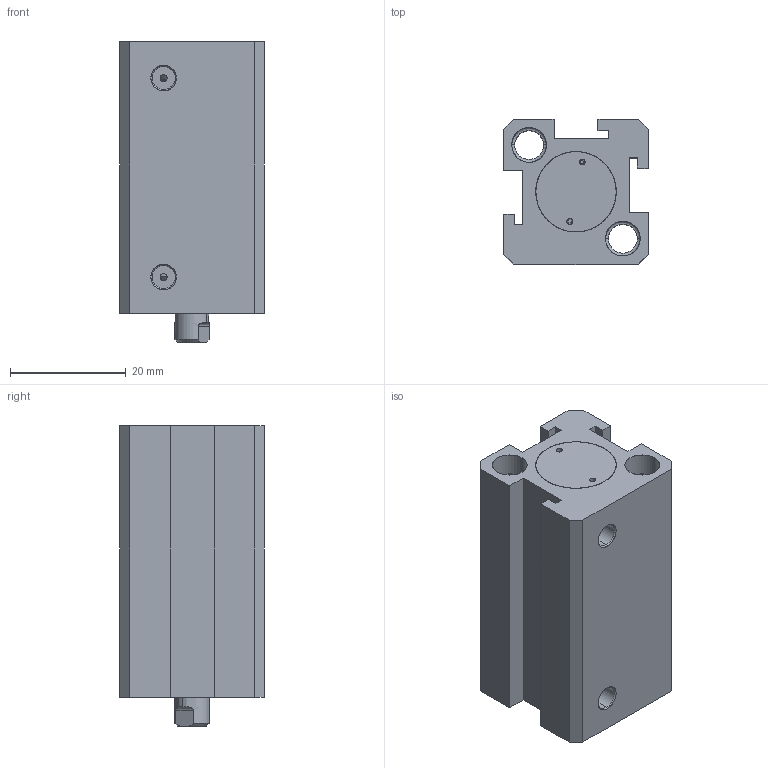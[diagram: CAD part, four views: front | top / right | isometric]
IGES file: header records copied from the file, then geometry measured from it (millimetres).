
Start section: SolidWorks IGES file using analytic representation for surfaces
Global section: file name: D:\ARICA 3D 禽Z軲LER\3D IGES\SDA\SDA 12\SDA-12X30CYLINDER.IGS,1; native system: 5HSolidWorks 2013; preprocessor: SolidWorks 2013; author: user; date: 150715.150414; units: millimetre
Bounding box: 25 x 25 x 52 mm (x, y, z)
Surface area: 13371.7 mm2 (no closed solid volume)
Topology: 0 solids, 0 shells, 198 faces, 2776 edges, 2772 vertices
Faces by surface type: revolution 107, bspline 91
